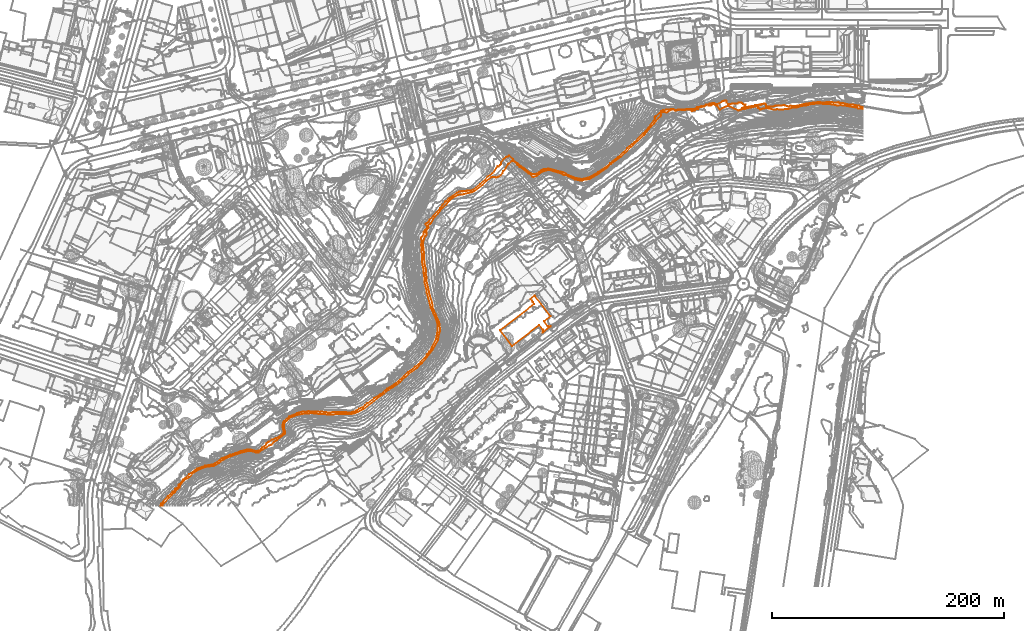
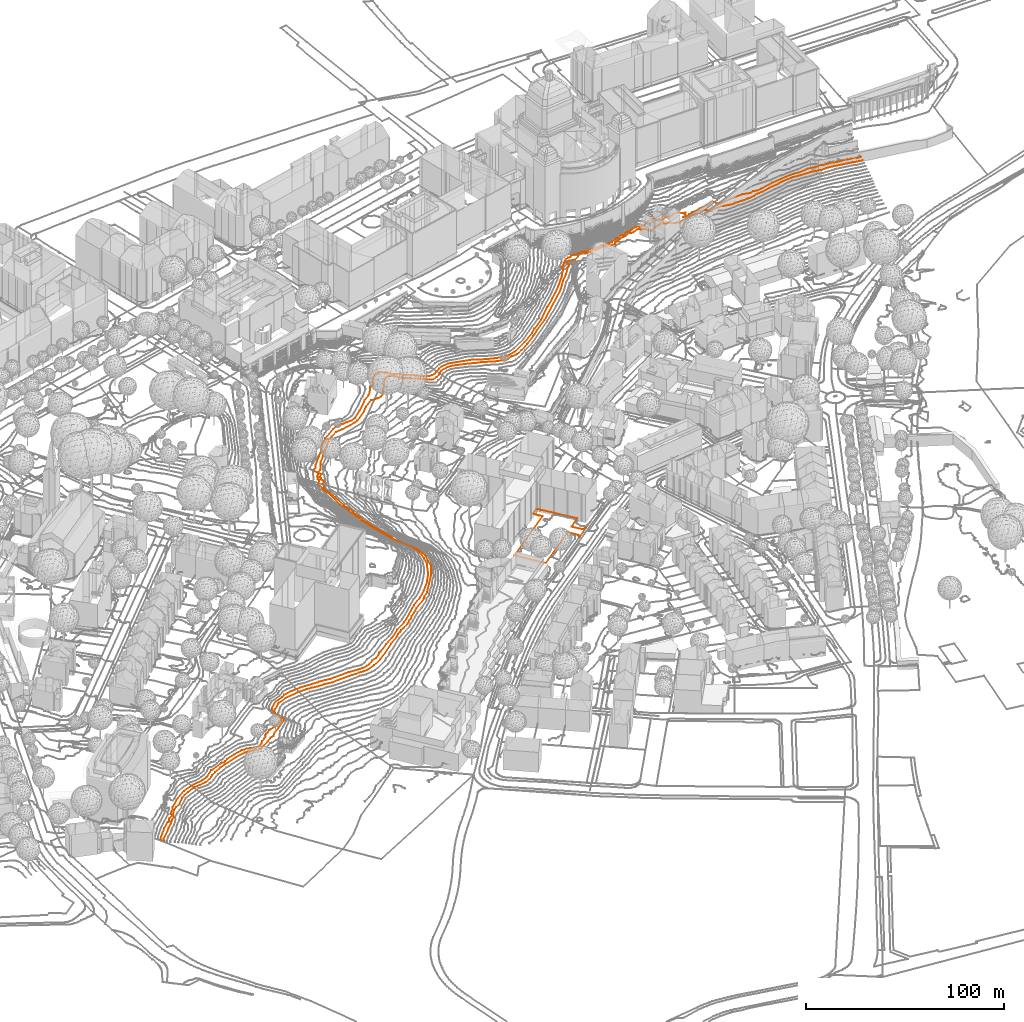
# Not in any storey, part 141 of 494: 3 proxies.
"""IFC2X3 model written with IfcOpenShell, lengths in metres."""

from ifc_helpers import new_model, entity, si_unit, frame, origin_with_axes, place, context, subcontext, project, element, save


model = new_model("IFC2X3")

# Units and contexts
model_context = context("Model", 3, precision=1e-05, world=origin_with_axes())
body_context = subcontext(model_context, "Body", "Model", "MODEL_VIEW")
ifc_project = project(units=[si_unit("AREAUNIT", "SQUARE_METRE"), si_unit("LENGTHUNIT", "METRE")], contexts=[model_context])

# Proxies
proxy_1_placement = place(None, frame((374.9277320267, 149.7877160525, 503.0065275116), z_axis=(0.0, 0.0, 1.0), x_axis=(1.0, 0.0, 0.0)))
element("IfcBuildingElementProxy", 1, at=proxy_1_placement, Name="Roads Outline 108", ObjectType="NOTDEFINED", context=body_context, shape_type="GeometricCurveSet", body=[
    entity("IfcGeometricCurveSet", [entity("IfcPolyline", [entity("IfcCartesianPoint", [0.0, 0.0, 0.0]), entity("IfcCartesianPoint", [29.5109999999, 22.6310000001, 0.0613416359]), entity("IfcCartesianPoint", [28.324, 24.1709999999, 0.0937933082]), entity("IfcCartesianPoint", [28.202, 24.3289999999, 0.0957038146]), entity("IfcCartesianPoint", [27.4109999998, 25.355, 0.0761084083]), entity("IfcCartesianPoint", [26.1499999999, 26.9909999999, 0.2251222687]), entity("IfcCartesianPoint", [29.8119999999, 29.801, 0.3091823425]), entity("IfcCartesianPoint", [30.0010000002, 29.5549999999, 0.2642736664]), entity("IfcCartesianPoint", [43.4640000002, 12.051, 0.3206114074]), entity("IfcCartesianPoint", [37.8650000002, 7.6809999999, -0.2680032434]), entity("IfcCartesianPoint", [41.0690000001, 3.537, -0.2568301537]), entity("IfcCartesianPoint", [41.3259999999, 3.317, -0.2567249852]), entity("IfcCartesianPoint", [41.6170000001, 3.1439999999, -0.2509099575]), entity("IfcCartesianPoint", [41.932, 3.0219999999, -0.2462269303]), entity("IfcCartesianPoint", [42.264, 2.9549999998, -0.2411063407]), entity("IfcCartesianPoint", [42.6510000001, 2.9469999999, -0.2454224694]), entity("IfcCartesianPoint", [43.0320000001, 3.014, -0.247263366]), entity("IfcCartesianPoint", [43.3930000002, 3.152, -0.2509293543]), entity("IfcCartesianPoint", [43.7209999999, 3.3569999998, -0.2545834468]), entity("IfcCartesianPoint", [36.4840000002, -2.2280000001, -0.4371853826]), entity("IfcCartesianPoint", [36.7110000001, -1.986, -0.43935893]), entity("IfcCartesianPoint", [36.8960000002, -1.7110000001, -0.439344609]), entity("IfcCartesianPoint", [37.034, -1.409, -0.4402286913]), entity("IfcCartesianPoint", [37.122, -1.0900000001, -0.4403077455]), entity("IfcCartesianPoint", [37.1580000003, -0.76, -0.4287603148]), entity("IfcCartesianPoint", [37.1370000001, -0.399, -0.4137720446]), entity("IfcCartesianPoint", [37.0520000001, -0.048, -0.3924721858]), entity("IfcCartesianPoint", [36.9070000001, 0.2830000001, -0.3611308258]), entity("IfcCartesianPoint", [36.7060000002, 0.5829999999, -0.3323738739]), entity("IfcCartesianPoint", [33.716, 4.463, -0.2780276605]), entity("IfcCartesianPoint", [10.4369999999, -13.5870000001, -0.1724256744]), entity("IfcCartesianPoint", [0.0, 0.0, 0.0])])]),
])
proxy_2_placement = place(None, frame((83.791356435, -1.3292839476, 521.0), z_axis=(0.0, 0.0, 1.0), x_axis=(1.0, 0.0, 0.0)))
element("IfcBuildingElementProxy", 2, at=proxy_2_placement, Name="Contour Line 521.0 m", ObjectType="NOTDEFINED", context=body_context, shape_type="GeometricCurveSet", body=[
    entity("IfcGeometricCurveSet", [entity("IfcPolyline", [entity("IfcCartesianPoint", [604.3863755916, 341.8987044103, 0.0]), entity("IfcCartesianPoint", [599.8863755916, 342.4084302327, 0.0]), entity("IfcCartesianPoint", [598.8863755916, 342.87574834, 0.0]), entity("IfcCartesianPoint", [587.8863755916, 344.799931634, 0.0]), entity("IfcCartesianPoint", [584.8863755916, 345.0718676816, 0.0]), entity("IfcCartesianPoint", [581.8863755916, 344.8837182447, 0.0]), entity("IfcCartesianPoint", [576.8863755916, 345.8593252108, 0.0]), entity("IfcCartesianPoint", [569.8863755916, 346.1228003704, 0.0]), entity("IfcCartesianPoint", [565.8863755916, 346.6195481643, 0.0]), entity("IfcCartesianPoint", [558.8863755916, 345.8922492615, 0.0]), entity("IfcCartesianPoint", [556.8863755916, 345.1698301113, 0.0]), entity("IfcCartesianPoint", [550.8863755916, 344.3693912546, 0.0]), entity("IfcCartesianPoint", [546.8863755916, 343.2551875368, 0.0]), entity("IfcCartesianPoint", [542.8863755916, 342.9363314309, 0.0]), entity("IfcCartesianPoint", [540.8863755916, 342.1447331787, 0.0]), entity("IfcCartesianPoint", [537.8863755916, 341.5804899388, 0.0]), entity("IfcCartesianPoint", [536.8863755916, 341.7028112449, 0.0]), entity("IfcCartesianPoint", [533.8863755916, 341.3257257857, 0.0]), entity("IfcCartesianPoint", [529.8863755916, 341.6553902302, 0.0]), entity("IfcCartesianPoint", [528.8863755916, 341.2635991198, 0.0]), entity("IfcCartesianPoint", [526.8863755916, 341.2891517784, 0.0]), entity("IfcCartesianPoint", [521.8863755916, 342.5064244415, 0.0]), entity("IfcCartesianPoint", [517.8863755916, 342.3385979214, 0.0]), entity("IfcCartesianPoint", [515.8863755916, 341.3889416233, 0.0]), entity("IfcCartesianPoint", [515.2852624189, 341.5, 0.0]), entity("IfcCartesianPoint", [514.8863755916, 341.9908675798, 0.0]), entity("IfcCartesianPoint", [513.7953899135, 342.5, 0.0]), entity("IfcCartesianPoint", [513.9711950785, 343.5, 0.0]), entity("IfcCartesianPoint", [512.8863755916, 344.0858758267, 0.0]), entity("IfcCartesianPoint", [510.8863755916, 343.9649802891, 0.0]), entity("IfcCartesianPoint", [508.8863755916, 343.3372289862, 0.0]), entity("IfcCartesianPoint", [505.8863755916, 342.9930379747, 0.0]), entity("IfcCartesianPoint", [502.8863755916, 341.9925241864, 0.0]), entity("IfcCartesianPoint", [500.8863755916, 341.8326068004, 0.0]), entity("IfcCartesianPoint", [497.8863755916, 341.0344222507, 0.0]), entity("IfcCartesianPoint", [496.8863755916, 340.3891862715, 0.0]), entity("IfcCartesianPoint", [487.8863755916, 344.5327061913, 0.0]), entity("IfcCartesianPoint", [482.8863755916, 342.7626782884, 0.0]), entity("IfcCartesianPoint", [480.8863755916, 341.2422150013, 0.0]), entity("IfcCartesianPoint", [479.8863755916, 342.3879524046, 0.0]), entity("IfcCartesianPoint", [478.7408025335, 344.5, 0.0]), entity("IfcCartesianPoint", [477.8863755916, 344.9392627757, 0.0]), entity("IfcCartesianPoint", [476.8863755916, 345.0330556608, 0.0]), entity("IfcCartesianPoint", [475.8863755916, 346.0452551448, 0.0]), entity("IfcCartesianPoint", [474.8863755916, 345.9737963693, 0.0]), entity("IfcCartesianPoint", [472.8863755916, 344.9998677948, 0.0]), entity("IfcCartesianPoint", [470.8863755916, 344.7797058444, 0.0]), entity("IfcCartesianPoint", [469.7864639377, 345.5, 0.0]), entity("IfcCartesianPoint", [466.8863755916, 343.8303726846, 0.0]), entity("IfcCartesianPoint", [462.5660133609, 343.5, 0.0]), entity("IfcCartesianPoint", [461.8863755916, 341.9782920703, 0.0]), entity("IfcCartesianPoint", [459.8863755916, 341.6795268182, 0.0]), entity("IfcCartesianPoint", [458.8863755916, 340.2770314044, 0.0]), entity("IfcCartesianPoint", [457.8863755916, 340.6517214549, 0.0]), entity("IfcCartesianPoint", [456.8863755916, 340.2544540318, 0.0]), entity("IfcCartesianPoint", [456.5286060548, 340.5, 0.0]), entity("IfcCartesianPoint", [456.3406690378, 341.5, 0.0]), entity("IfcCartesianPoint", [455.8863755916, 341.5685196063, 0.0]), entity("IfcCartesianPoint", [451.8863755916, 341.3246370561, 0.0]), entity("IfcCartesianPoint", [450.8863755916, 340.947225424, 0.0]), entity("IfcCartesianPoint", [448.8863755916, 341.1097930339, 0.0]), entity("IfcCartesianPoint", [447.8863755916, 340.8168091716, 0.0]), entity("IfcCartesianPoint", [446.8863755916, 341.2675598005, 0.0]), entity("IfcCartesianPoint", [442.8863755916, 340.5925324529, 0.0]), entity("IfcCartesianPoint", [441.8863755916, 340.6221711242, 0.0]), entity("IfcCartesianPoint", [440.8863755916, 341.5208488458, 0.0]), entity("IfcCartesianPoint", [439.3792548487, 341.5, 0.0]), entity("IfcCartesianPoint", [434.8863755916, 338.8202105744, 0.0]), entity("IfcCartesianPoint", [431.8863755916, 339.2382520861, 0.0]), entity("IfcCartesianPoint", [429.6788317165, 338.5, 0.0]), entity("IfcCartesianPoint", [429.8595155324, 336.5, 0.0]), entity("IfcCartesianPoint", [429.4439994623, 335.5, 0.0]), entity("IfcCartesianPoint", [427.8863755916, 334.1942290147, 0.0]), entity("IfcCartesianPoint", [423.8863755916, 329.1825994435, 0.0]), entity("IfcCartesianPoint", [420.8863755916, 326.3751370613, 0.0]), entity("IfcCartesianPoint", [415.3415556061, 319.5, 0.0]), entity("IfcCartesianPoint", [394.9737800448, 300.5, 0.0]), entity("IfcCartesianPoint", [386.9280117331, 294.5, 0.0]), entity("IfcCartesianPoint", [382.8863755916, 290.8732756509, 0.0]), entity("IfcCartesianPoint", [376.7291147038, 286.5, 0.0]), entity("IfcCartesianPoint", [371.8863755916, 283.4854147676, 0.0]), entity("IfcCartesianPoint", [367.8863755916, 281.3798472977, 0.0]), entity("IfcCartesianPoint", [364.8863755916, 280.9458428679, 0.0]), entity("IfcCartesianPoint", [363.8863755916, 281.089720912, 0.0]), entity("IfcCartesianPoint", [361.8863755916, 280.0909668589, 0.0]), entity("IfcCartesianPoint", [358.8863755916, 280.3238388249, 0.0]), entity("IfcCartesianPoint", [355.8863755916, 281.0995667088, 0.0]), entity("IfcCartesianPoint", [347.8863755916, 284.6564074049, 0.0]), entity("IfcCartesianPoint", [345.8863755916, 285.0040423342, 0.0]), entity("IfcCartesianPoint", [342.8863755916, 286.4240379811, 0.0]), entity("IfcCartesianPoint", [333.8863755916, 289.101015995, 0.0]), entity("IfcCartesianPoint", [331.8863755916, 289.1582836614, 0.0]), entity("IfcCartesianPoint", [327.8863755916, 288.0219921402, 0.0]), entity("IfcCartesianPoint", [326.8319679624, 287.5, 0.0]), entity("IfcCartesianPoint", [324.8863755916, 285.6300912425, 0.0]), entity("IfcCartesianPoint", [322.8863755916, 284.3430609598, 0.0]), entity("IfcCartesianPoint", [319.8863755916, 283.2183973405, 0.0]), entity("IfcCartesianPoint", [318.8863755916, 283.6954887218, 0.0]), entity("IfcCartesianPoint", [315.8863755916, 286.3299076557, 0.0]), entity("IfcCartesianPoint", [307.8863755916, 291.8349466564, 0.0]), entity("IfcCartesianPoint", [306.1546144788, 293.5, 0.0]), entity("IfcCartesianPoint", [305.7045290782, 294.5, 0.0]), entity("IfcCartesianPoint", [302.8863755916, 296.7450235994, 0.0]), entity("IfcCartesianPoint", [301.8863755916, 297.1964152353, 0.0]), entity("IfcCartesianPoint", [300.8863755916, 296.9886922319, 0.0]), entity("IfcCartesianPoint", [298.8863755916, 294.9352766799, 0.0]), entity("IfcCartesianPoint", [297.8863755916, 294.2972579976, 0.0]), entity("IfcCartesianPoint", [295.7970850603, 290.5, 0.0]), entity("IfcCartesianPoint", [293.8863755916, 288.0982478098, 0.0]), entity("IfcCartesianPoint", [293.1220708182, 286.5, 0.0]), entity("IfcCartesianPoint", [291.3957332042, 284.5, 0.0]), entity("IfcCartesianPoint", [290.0524679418, 283.5, 0.0]), entity("IfcCartesianPoint", [287.8863755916, 282.8791958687, 0.0]), entity("IfcCartesianPoint", [283.8863755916, 283.0540983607, 0.0]), entity("IfcCartesianPoint", [278.8863755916, 279.532561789, 0.0]), entity("IfcCartesianPoint", [275.8863755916, 276.3722633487, 0.0]), entity("IfcCartesianPoint", [268.8863755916, 270.9127260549, 0.0]), entity("IfcCartesianPoint", [266.8863755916, 270.1161239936, 0.0]), entity("IfcCartesianPoint", [258.8863755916, 268.2223692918, 0.0]), entity("IfcCartesianPoint", [254.8863755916, 267.7989292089, 0.0]), entity("IfcCartesianPoint", [250.695432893, 265.5, 0.0]), entity("IfcCartesianPoint", [247.8863755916, 263.5297297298, 0.0]), entity("IfcCartesianPoint", [247.2285846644, 262.5, 0.0]), entity("IfcCartesianPoint", [246.1083222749, 261.5, 0.0]), entity("IfcCartesianPoint", [244.8193839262, 259.5, 0.0]), entity("IfcCartesianPoint", [240.4705236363, 255.5, 0.0]), entity("IfcCartesianPoint", [237.4982193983, 251.5, 0.0]), entity("IfcCartesianPoint", [234.4798427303, 248.5, 0.0]), entity("IfcCartesianPoint", [231.610096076, 243.5, 0.0]), entity("IfcCartesianPoint", [230.8863755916, 242.7098926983, 0.0]), entity("IfcCartesianPoint", [228.8303915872, 241.5, 0.0]), entity("IfcCartesianPoint", [229.5957967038, 239.5, 0.0]), entity("IfcCartesianPoint", [227.8420036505, 237.5, 0.0]), entity("IfcCartesianPoint", [227.8863755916, 236.2383647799, 0.0]), entity("IfcCartesianPoint", [226.8863755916, 235.7663043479, 0.0]), entity("IfcCartesianPoint", [227.6013899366, 234.5, 0.0]), entity("IfcCartesianPoint", [227.5567533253, 233.5, 0.0]), entity("IfcCartesianPoint", [226.8863755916, 232.0772357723, 0.0]), entity("IfcCartesianPoint", [225.8863755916, 231.4722921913, 0.0]), entity("IfcCartesianPoint", [225.6793390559, 229.5, 0.0]), entity("IfcCartesianPoint", [224.9956873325, 228.5, 0.0]), entity("IfcCartesianPoint", [224.7261205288, 227.5, 0.0]), entity("IfcCartesianPoint", [224.5506880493, 225.5, 0.0]), entity("IfcCartesianPoint", [225.1147865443, 222.5, 0.0]), entity("IfcCartesianPoint", [225.5708747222, 217.5, 0.0]), entity("IfcCartesianPoint", [225.8988629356, 209.5, 0.0]), entity("IfcCartesianPoint", [227.2228811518, 203.5, 0.0]), entity("IfcCartesianPoint", [227.1083720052, 200.5, 0.0]), entity("IfcCartesianPoint", [227.7493877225, 196.5, 0.0]), entity("IfcCartesianPoint", [227.8487824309, 193.5, 0.0]), entity("IfcCartesianPoint", [229.9312222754, 184.5, 0.0]), entity("IfcCartesianPoint", [229.9138551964, 183.5, 0.0]), entity("IfcCartesianPoint", [232.7066443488, 174.5, 0.0]), entity("IfcCartesianPoint", [232.7599097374, 171.5, 0.0]), entity("IfcCartesianPoint", [238.4113636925, 158.5, 0.0]), entity("IfcCartesianPoint", [238.9011349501, 156.5, 0.0]), entity("IfcCartesianPoint", [239.4631737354, 151.5, 0.0]), entity("IfcCartesianPoint", [239.4066303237, 150.5, 0.0]), entity("IfcCartesianPoint", [238.1785400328, 146.5, 0.0]), entity("IfcCartesianPoint", [237.6311051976, 142.5, 0.0]), entity("IfcCartesianPoint", [232.9923784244, 134.5, 0.0]), entity("IfcCartesianPoint", [223.7236762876, 122.5, 0.0]), entity("IfcCartesianPoint", [221.1379507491, 120.5, 0.0]), entity("IfcCartesianPoint", [219.5999798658, 118.5, 0.0]), entity("IfcCartesianPoint", [212.4273943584, 113.5, 0.0]), entity("IfcCartesianPoint", [209.3122473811, 110.5, 0.0]), entity("IfcCartesianPoint", [206.7777386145, 108.5, 0.0]), entity("IfcCartesianPoint", [205.067651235, 106.5, 0.0]), entity("IfcCartesianPoint", [203.8863755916, 105.8727701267, 0.0]), entity("IfcCartesianPoint", [201.8863755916, 103.9784876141, 0.0]), entity("IfcCartesianPoint", [197.8863755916, 101.4125049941, 0.0]), entity("IfcCartesianPoint", [195.8863755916, 100.4982316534, 0.0]), entity("IfcCartesianPoint", [194.8863755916, 99.5092929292, 0.0]), entity("IfcCartesianPoint", [192.8863755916, 98.3355545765, 0.0]), entity("IfcCartesianPoint", [191.0063052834, 96.5, 0.0]), entity("IfcCartesianPoint", [185.8863755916, 92.8303038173, 0.0]), entity("IfcCartesianPoint", [173.8863755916, 83.3126562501, 0.0]), entity("IfcCartesianPoint", [168.8863755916, 80.687684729, 0.0]), entity("IfcCartesianPoint", [164.8863755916, 79.1813009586, 0.0]), entity("IfcCartesianPoint", [161.8863755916, 78.5833579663, 0.0]), entity("IfcCartesianPoint", [158.8863755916, 78.9213296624, 0.0]), entity("IfcCartesianPoint", [156.8863755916, 78.602060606, 0.0]), entity("IfcCartesianPoint", [154.8863755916, 78.8458904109, 0.0]), entity("IfcCartesianPoint", [142.8863755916, 78.2366922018, 0.0]), entity("IfcCartesianPoint", [138.8863755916, 78.7122124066, 0.0]), entity("IfcCartesianPoint", [134.8863755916, 78.6884531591, 0.0]), entity("IfcCartesianPoint", [131.8863755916, 79.2414070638, 0.0]), entity("IfcCartesianPoint", [128.8863755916, 79.4088554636, 0.0]), entity("IfcCartesianPoint", [123.8863755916, 79.2872216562, 0.0]), entity("IfcCartesianPoint", [115.8863755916, 78.0295998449, 0.0]), entity("IfcCartesianPoint", [110.8863755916, 75.9730396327, 0.0]), entity("IfcCartesianPoint", [110.0408298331, 75.5, 0.0]), entity("IfcCartesianPoint", [105.8863755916, 71.7706288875, 0.0]), entity("IfcCartesianPoint", [105.0247756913, 70.5, 0.0]), entity("IfcCartesianPoint", [104.7229251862, 67.5, 0.0]), entity("IfcCartesianPoint", [105.7636862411, 63.5, 0.0]), entity("IfcCartesianPoint", [105.6760198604, 62.5, 0.0]), entity("IfcCartesianPoint", [105.1440402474, 61.5, 0.0]), entity("IfcCartesianPoint", [99.0315857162, 56.5, 0.0]), entity("IfcCartesianPoint", [95.8863755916, 54.6133212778, 0.0]), entity("IfcCartesianPoint", [93.8863755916, 52.2652329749, 0.0]), entity("IfcCartesianPoint", [91.8863755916, 51.7428511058, 0.0]), entity("IfcCartesianPoint", [88.9253225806, 49.5, 0.0]), entity("IfcCartesianPoint", [85.4118705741, 47.5, 0.0]), entity("IfcCartesianPoint", [82.8863755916, 45.5958343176, 0.0]), entity("IfcCartesianPoint", [80.8863755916, 45.4526112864, 0.0]), entity("IfcCartesianPoint", [75.8863755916, 46.8805472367, 0.0]), entity("IfcCartesianPoint", [73.8863755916, 46.8262884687, 0.0]), entity("IfcCartesianPoint", [67.8863755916, 45.4140938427, 0.0]), entity("IfcCartesianPoint", [56.7106525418, 41.5, 0.0]), entity("IfcCartesianPoint", [52.4794921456, 39.5, 0.0]), entity("IfcCartesianPoint", [49.8863755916, 37.755170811, 0.0]), entity("IfcCartesianPoint", [48.5856585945, 36.5, 0.0]), entity("IfcCartesianPoint", [43.8863755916, 34.0239391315, 0.0]), entity("IfcCartesianPoint", [36.8863755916, 33.0761060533, 0.0]), entity("IfcCartesianPoint", [31.8863755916, 31.1196475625, 0.0]), entity("IfcCartesianPoint", [28.8863755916, 29.5551261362, 0.0]), entity("IfcCartesianPoint", [26.8863755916, 28.1370601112, 0.0]), entity("IfcCartesianPoint", [22.8863755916, 24.2091403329, 0.0]), entity("IfcCartesianPoint", [19.8863755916, 22.5053724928, 0.0]), entity("IfcCartesianPoint", [17.8863755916, 20.9011958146, 0.0]), entity("IfcCartesianPoint", [15.3224500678, 17.5, 0.0]), entity("IfcCartesianPoint", [14.617059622, 15.5, 0.0]), entity("IfcCartesianPoint", [12.8863755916, 14.1623841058, 0.0]), entity("IfcCartesianPoint", [10.677470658, 11.5, 0.0]), entity("IfcCartesianPoint", [7.8863755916, 9.007092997, 0.0]), entity("IfcCartesianPoint", [5.725555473, 6.5, 0.0]), entity("IfcCartesianPoint", [0.8863755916, 1.7936953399, 0.0]), entity("IfcCartesianPoint", [0.0, 0.5, 0.0]), entity("IfcCartesianPoint", [0.0, 0.0, 0.0])])]),
])
proxy_3_placement = place(None, frame((81.9797185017, -1.3292839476, 522.0), z_axis=(0.0, 0.0, 1.0), x_axis=(1.0, 0.0, 0.0)))
element("IfcBuildingElementProxy", 3, at=proxy_3_placement, Name="Contour Line 522.0 m", ObjectType="NOTDEFINED", context=body_context, shape_type="GeometricCurveSet", body=[
    entity("IfcGeometricCurveSet", [entity("IfcPolyline", [entity("IfcCartesianPoint", [606.198013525, 343.637235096, 0.0]), entity("IfcCartesianPoint", [603.698013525, 343.7864330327, 0.0]), entity("IfcCartesianPoint", [602.698013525, 344.6129616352, 0.0]), entity("IfcCartesianPoint", [600.698013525, 344.6392572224, 0.0]), entity("IfcCartesianPoint", [599.698013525, 345.0120298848, 0.0]), entity("IfcCartesianPoint", [598.698013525, 344.8008034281, 0.0]), entity("IfcCartesianPoint", [597.6226225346, 345.5, 0.0]), entity("IfcCartesianPoint", [593.698013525, 345.6589945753, 0.0]), entity("IfcCartesianPoint", [591.698013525, 346.0818581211, 0.0]), entity("IfcCartesianPoint", [590.698013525, 346.6211133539, 0.0]), entity("IfcCartesianPoint", [585.698013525, 347.007639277, 0.0]), entity("IfcCartesianPoint", [584.698013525, 347.5986667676, 0.0]), entity("IfcCartesianPoint", [581.698013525, 347.3086317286, 0.0]), entity("IfcCartesianPoint", [577.698013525, 348.0105438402, 0.0]), entity("IfcCartesianPoint", [571.698013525, 347.398686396, 0.0]), entity("IfcCartesianPoint", [568.698013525, 347.7309078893, 0.0]), entity("IfcCartesianPoint", [564.698013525, 347.5518119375, 0.0]), entity("IfcCartesianPoint", [555.698013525, 346.2610782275, 0.0]), entity("IfcCartesianPoint", [548.3698783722, 344.5, 0.0]), entity("IfcCartesianPoint", [545.698013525, 344.1939337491, 0.0]), entity("IfcCartesianPoint", [543.698013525, 344.6515345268, 0.0]), entity("IfcCartesianPoint", [541.698013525, 344.0219584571, 0.0]), entity("IfcCartesianPoint", [537.698013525, 345.0840807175, 0.0]), entity("IfcCartesianPoint", [530.698013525, 344.6569793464, 0.0]), entity("IfcCartesianPoint", [526.698013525, 343.7771395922, 0.0]), entity("IfcCartesianPoint", [522.698013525, 343.7687285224, 0.0]), entity("IfcCartesianPoint", [522.3005536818, 344.5, 0.0]), entity("IfcCartesianPoint", [522.2770525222, 345.5, 0.0]), entity("IfcCartesianPoint", [521.698013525, 346.4596076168, 0.0]), entity("IfcCartesianPoint", [520.698013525, 346.6939958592, 0.0]), entity("IfcCartesianPoint", [519.698013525, 346.0109590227, 0.0]), entity("IfcCartesianPoint", [518.698013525, 346.0076816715, 0.0]), entity("IfcCartesianPoint", [517.698013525, 345.2650848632, 0.0]), entity("IfcCartesianPoint", [516.698013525, 345.5421743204, 0.0]), entity("IfcCartesianPoint", [512.698013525, 345.1022361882, 0.0]), entity("IfcCartesianPoint", [511.698013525, 344.4403077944, 0.0]), entity("IfcCartesianPoint", [507.698013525, 344.0227333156, 0.0]), entity("IfcCartesianPoint", [507.3323821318, 343.5, 0.0]), entity("IfcCartesianPoint", [505.698013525, 343.3049045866, 0.0]), entity("IfcCartesianPoint", [504.698013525, 342.4042342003, 0.0]), entity("IfcCartesianPoint", [501.698013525, 342.4753396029, 0.0]), entity("IfcCartesianPoint", [501.698013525, 342.7032146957, 0.0]), entity("IfcCartesianPoint", [503.8168659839, 343.5, 0.0]), entity("IfcCartesianPoint", [503.7548997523, 344.5, 0.0]), entity("IfcCartesianPoint", [504.7404163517, 345.5, 0.0]), entity("IfcCartesianPoint", [502.698013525, 346.0073746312, 0.0]), entity("IfcCartesianPoint", [501.698013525, 347.1635160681, 0.0]), entity("IfcCartesianPoint", [500.6260783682, 347.5, 0.0]), entity("IfcCartesianPoint", [498.698013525, 347.5236572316, 0.0]), entity("IfcCartesianPoint", [497.698013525, 346.6240109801, 0.0]), entity("IfcCartesianPoint", [493.698013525, 346.6427139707, 0.0]), entity("IfcCartesianPoint", [490.698013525, 345.9413986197, 0.0]), entity("IfcCartesianPoint", [489.698013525, 346.0256883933, 0.0]), entity("IfcCartesianPoint", [488.5070910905, 347.5, 0.0]), entity("IfcCartesianPoint", [488.2100489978, 348.5, 0.0]), entity("IfcCartesianPoint", [487.698013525, 348.9297867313, 0.0]), entity("IfcCartesianPoint", [486.698013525, 348.9575870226, 0.0]), entity("IfcCartesianPoint", [484.7770508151, 348.5, 0.0]), entity("IfcCartesianPoint", [481.698013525, 346.4669657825, 0.0]), entity("IfcCartesianPoint", [478.698013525, 346.0124630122, 0.0]), entity("IfcCartesianPoint", [477.698013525, 346.8881819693, 0.0]), entity("IfcCartesianPoint", [476.698013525, 346.9557478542, 0.0]), entity("IfcCartesianPoint", [473.8383135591, 346.5, 0.0]), entity("IfcCartesianPoint", [472.698013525, 345.8622551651, 0.0]), entity("IfcCartesianPoint", [470.511347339, 345.5, 0.0]), entity("IfcCartesianPoint", [467.698013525, 344.0270382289, 0.0]), entity("IfcCartesianPoint", [466.698013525, 344.3786721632, 0.0]), entity("IfcCartesianPoint", [463.698013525, 343.3314338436, 0.0]), entity("IfcCartesianPoint", [462.698013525, 343.4157155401, 0.0]), entity("IfcCartesianPoint", [459.698013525, 341.6271342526, 0.0]), entity("IfcCartesianPoint", [453.698013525, 341.5638527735, 0.0]), entity("IfcCartesianPoint", [451.698013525, 341.1794283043, 0.0]), entity("IfcCartesianPoint", [450.698013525, 341.5208096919, 0.0]), entity("IfcCartesianPoint", [449.698013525, 341.0791462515, 0.0]), entity("IfcCartesianPoint", [448.698013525, 341.5531863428, 0.0]), entity("IfcCartesianPoint", [446.698013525, 341.4882209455, 0.0]), entity("IfcCartesianPoint", [444.698013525, 340.7391100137, 0.0]), entity("IfcCartesianPoint", [443.698013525, 340.870022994, 0.0]), entity("IfcCartesianPoint", [442.698013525, 341.6032782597, 0.0]), entity("IfcCartesianPoint", [436.0058431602, 341.5, 0.0]), entity("IfcCartesianPoint", [434.9003831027, 340.5, 0.0]), entity("IfcCartesianPoint", [433.698013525, 340.719621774, 0.0]), entity("IfcCartesianPoint", [431.698013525, 339.9703262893, 0.0]), entity("IfcCartesianPoint", [427.698013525, 335.7902147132, 0.0]), entity("IfcCartesianPoint", [426.6029583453, 335.5, 0.0]), entity("IfcCartesianPoint", [426.266314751, 334.5, 0.0]), entity("IfcCartesianPoint", [426.6147885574, 333.5, 0.0]), entity("IfcCartesianPoint", [426.1695957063, 332.5, 0.0]), entity("IfcCartesianPoint", [425.1633427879, 331.5, 0.0]), entity("IfcCartesianPoint", [422.698013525, 328.0214191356, 0.0]), entity("IfcCartesianPoint", [416.698013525, 321.2668423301, 0.0]), entity("IfcCartesianPoint", [408.8192450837, 313.5, 0.0]), entity("IfcCartesianPoint", [402.698013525, 308.2600979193, 0.0]), entity("IfcCartesianPoint", [394.698013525, 300.2717541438, 0.0]), entity("IfcCartesianPoint", [387.698013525, 295.0854133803, 0.0]), entity("IfcCartesianPoint", [384.698013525, 292.289659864, 0.0]), entity("IfcCartesianPoint", [377.698013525, 287.406673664, 0.0]), entity("IfcCartesianPoint", [369.0616907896, 282.5, 0.0]), entity("IfcCartesianPoint", [363.698013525, 281.5231730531, 0.0]), entity("IfcCartesianPoint", [362.698013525, 281.4595959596, 0.0]), entity("IfcCartesianPoint", [357.698013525, 282.4601414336, 0.0]), entity("IfcCartesianPoint", [351.698013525, 284.8294436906, 0.0]), entity("IfcCartesianPoint", [347.698013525, 287.1184689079, 0.0]), entity("IfcCartesianPoint", [334.698013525, 290.4321167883, 0.0]), entity("IfcCartesianPoint", [330.698013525, 289.8174995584, 0.0]), entity("IfcCartesianPoint", [328.698013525, 288.9623844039, 0.0]), entity("IfcCartesianPoint", [324.698013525, 286.2246471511, 0.0]), entity("IfcCartesianPoint", [322.698013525, 285.587884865, 0.0]), entity("IfcCartesianPoint", [320.698013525, 285.6777609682, 0.0]), entity("IfcCartesianPoint", [319.698013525, 286.0709351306, 0.0]), entity("IfcCartesianPoint", [316.698013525, 288.2350185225, 0.0]), entity("IfcCartesianPoint", [314.698013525, 290.070368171, 0.0]), entity("IfcCartesianPoint", [310.6148497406, 292.5, 0.0]), entity("IfcCartesianPoint", [307.698013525, 295.4066855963, 0.0]), entity("IfcCartesianPoint", [305.6551105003, 296.5, 0.0]), entity("IfcCartesianPoint", [304.122462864, 298.5, 0.0]), entity("IfcCartesianPoint", [300.698013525, 301.5506864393, 0.0]), entity("IfcCartesianPoint", [299.698013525, 300.8678783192, 0.0]), entity("IfcCartesianPoint", [297.9779048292, 300.5, 0.0]), entity("IfcCartesianPoint", [295.9158755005, 298.5, 0.0]), entity("IfcCartesianPoint", [293.7144463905, 295.5, 0.0]), entity("IfcCartesianPoint", [293.6728166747, 294.5, 0.0]), entity("IfcCartesianPoint", [292.9100645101, 293.5, 0.0]), entity("IfcCartesianPoint", [291.698013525, 292.3231009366, 0.0]), entity("IfcCartesianPoint", [290.698013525, 292.4304495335, 0.0]), entity("IfcCartesianPoint", [287.698013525, 287.972075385, 0.0]), entity("IfcCartesianPoint", [286.3161795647, 286.5, 0.0]), entity("IfcCartesianPoint", [282.3474336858, 283.5, 0.0]), entity("IfcCartesianPoint", [275.698013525, 277.0174917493, 0.0]), entity("IfcCartesianPoint", [270.2290850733, 272.5, 0.0]), entity("IfcCartesianPoint", [267.698013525, 271.4686950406, 0.0]), entity("IfcCartesianPoint", [264.698013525, 271.2940344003, 0.0]), entity("IfcCartesianPoint", [262.698013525, 270.8507621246, 0.0]), entity("IfcCartesianPoint", [261.698013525, 271.1296965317, 0.0]), entity("IfcCartesianPoint", [260.698013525, 270.6410788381, 0.0]), entity("IfcCartesianPoint", [259.698013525, 271.0029776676, 0.0]), entity("IfcCartesianPoint", [257.692729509, 270.5, 0.0]), entity("IfcCartesianPoint", [255.698013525, 269.5597563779, 0.0]), entity("IfcCartesianPoint", [248.3571724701, 264.5, 0.0]), entity("IfcCartesianPoint", [246.698013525, 262.3792604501, 0.0]), entity("IfcCartesianPoint", [245.698013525, 261.9029959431, 0.0]), entity("IfcCartesianPoint", [243.4391812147, 259.5, 0.0]), entity("IfcCartesianPoint", [241.4058713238, 256.5, 0.0]), entity("IfcCartesianPoint", [232.3590632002, 246.5, 0.0]), entity("IfcCartesianPoint", [231.2830146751, 244.5, 0.0]), entity("IfcCartesianPoint", [229.6651617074, 243.5, 0.0]), entity("IfcCartesianPoint", [228.7529239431, 242.5, 0.0]), entity("IfcCartesianPoint", [229.9216336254, 240.5, 0.0]), entity("IfcCartesianPoint", [229.8715357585, 239.5, 0.0]), entity("IfcCartesianPoint", [228.1465663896, 237.5, 0.0]), entity("IfcCartesianPoint", [227.8833158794, 236.5, 0.0]), entity("IfcCartesianPoint", [227.0958774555, 235.5, 0.0]), entity("IfcCartesianPoint", [226.9927794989, 233.5, 0.0]), entity("IfcCartesianPoint", [225.1464420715, 231.5, 0.0]), entity("IfcCartesianPoint", [224.9559082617, 230.5, 0.0]), entity("IfcCartesianPoint", [225.2548225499, 227.5, 0.0]), entity("IfcCartesianPoint", [224.7818051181, 224.5, 0.0]), entity("IfcCartesianPoint", [225.4212656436, 222.5, 0.0]), entity("IfcCartesianPoint", [225.569868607, 210.5, 0.0]), entity("IfcCartesianPoint", [226.9680770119, 203.5, 0.0]), entity("IfcCartesianPoint", [226.9398976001, 201.5, 0.0]), entity("IfcCartesianPoint", [227.7107410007, 196.5, 0.0]), entity("IfcCartesianPoint", [227.8542014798, 192.5, 0.0]), entity("IfcCartesianPoint", [229.5990505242, 185.5, 0.0]), entity("IfcCartesianPoint", [229.7366440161, 183.5, 0.0]), entity("IfcCartesianPoint", [232.2738138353, 174.5, 0.0]), entity("IfcCartesianPoint", [233.0969921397, 170.5, 0.0]), entity("IfcCartesianPoint", [237.4591561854, 161.5, 0.0]), entity("IfcCartesianPoint", [238.8425162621, 157.5, 0.0]), entity("IfcCartesianPoint", [239.1606524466, 151.5, 0.0]), entity("IfcCartesianPoint", [238.7951444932, 148.5, 0.0]), entity("IfcCartesianPoint", [237.629348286, 143.5, 0.0]), entity("IfcCartesianPoint", [234.2980135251, 136.5, 0.0]), entity("IfcCartesianPoint", [231.8230247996, 132.5, 0.0]), entity("IfcCartesianPoint", [230.1900135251, 130.5, 0.0]), entity("IfcCartesianPoint", [229.7665580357, 129.5, 0.0]), entity("IfcCartesianPoint", [224.216217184, 123.5, 0.0]), entity("IfcCartesianPoint", [219.775708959, 119.5, 0.0]), entity("IfcCartesianPoint", [213.698013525, 115.0758996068, 0.0]), entity("IfcCartesianPoint", [201.9807795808, 104.5, 0.0]), entity("IfcCartesianPoint", [195.698013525, 100.6438243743, 0.0]), entity("IfcCartesianPoint", [189.698013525, 95.806359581, 0.0]), entity("IfcCartesianPoint", [184.4592214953, 92.5, 0.0]), entity("IfcCartesianPoint", [178.698013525, 88.0729818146, 0.0]), entity("IfcCartesianPoint", [177.698013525, 87.6624656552, 0.0]), entity("IfcCartesianPoint", [176.635268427, 86.5, 0.0]), entity("IfcCartesianPoint", [174.0240639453, 84.5, 0.0]), entity("IfcCartesianPoint", [171.2580021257, 83.5, 0.0]), entity("IfcCartesianPoint", [168.698013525, 81.6449412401, 0.0]), entity("IfcCartesianPoint", [166.698013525, 80.7133404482, 0.0]), entity("IfcCartesianPoint", [163.698013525, 80.0336498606, 0.0]), entity("IfcCartesianPoint", [155.698013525, 80.5995100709, 0.0]), entity("IfcCartesianPoint", [144.698013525, 80.1099754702, 0.0]), entity("IfcCartesianPoint", [138.698013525, 80.8594159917, 0.0]), entity("IfcCartesianPoint", [137.698013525, 80.6373283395, 0.0]), entity("IfcCartesianPoint", [127.698013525, 81.1084610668, 0.0]), entity("IfcCartesianPoint", [124.698013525, 80.6531277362, 0.0]), entity("IfcCartesianPoint", [122.698013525, 80.6967255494, 0.0]), entity("IfcCartesianPoint", [117.698013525, 79.6552135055, 0.0]), entity("IfcCartesianPoint", [115.698013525, 78.2210708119, 0.0]), entity("IfcCartesianPoint", [110.7834196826, 76.5, 0.0]), entity("IfcCartesianPoint", [106.698013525, 72.8172256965, 0.0]), entity("IfcCartesianPoint", [105.8100705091, 71.5, 0.0]), entity("IfcCartesianPoint", [105.2777776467, 68.5, 0.0]), entity("IfcCartesianPoint", [106.2918397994, 63.5, 0.0]), entity("IfcCartesianPoint", [106.1582599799, 62.5, 0.0]), entity("IfcCartesianPoint", [105.4893904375, 61.5, 0.0]), entity("IfcCartesianPoint", [103.698013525, 60.0084347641, 0.0]), entity("IfcCartesianPoint", [99.698013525, 57.9110393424, 0.0]), entity("IfcCartesianPoint", [96.698013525, 56.764684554, 0.0]), entity("IfcCartesianPoint", [95.698013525, 56.6631693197, 0.0]), entity("IfcCartesianPoint", [93.698013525, 54.8455227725, 0.0]), entity("IfcCartesianPoint", [92.6587220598, 54.5, 0.0]), entity("IfcCartesianPoint", [91.5380664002, 53.5, 0.0]), entity("IfcCartesianPoint", [91.1807565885, 52.5, 0.0]), entity("IfcCartesianPoint", [89.698013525, 51.1276243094, 0.0]), entity("IfcCartesianPoint", [87.698013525, 49.9546744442, 0.0]), entity("IfcCartesianPoint", [86.6272846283, 48.5, 0.0]), entity("IfcCartesianPoint", [84.698013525, 47.0222115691, 0.0]), entity("IfcCartesianPoint", [83.698013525, 46.6396735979, 0.0]), entity("IfcCartesianPoint", [82.698013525, 46.6322201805, 0.0]), entity("IfcCartesianPoint", [77.698013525, 48.017405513, 0.0]), entity("IfcCartesianPoint", [74.698013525, 48.0699635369, 0.0]), entity("IfcCartesianPoint", [69.698013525, 46.8075674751, 0.0]), entity("IfcCartesianPoint", [64.698013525, 45.1403031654, 0.0]), entity("IfcCartesianPoint", [62.698013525, 44.0537533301, 0.0]), entity("IfcCartesianPoint", [61.698013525, 43.117908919, 0.0]), entity("IfcCartesianPoint", [60.698013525, 43.6516466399, 0.0]), entity("IfcCartesianPoint", [59.9901454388, 43.5, 0.0]), entity("IfcCartesianPoint", [53.698013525, 40.7399053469, 0.0]), entity("IfcCartesianPoint", [52.698013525, 40.5297596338, 0.0]), entity("IfcCartesianPoint", [47.698013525, 36.4558193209, 0.0]), entity("IfcCartesianPoint", [44.698013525, 35.1941813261, 0.0]), entity("IfcCartesianPoint", [38.698013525, 34.2241582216, 0.0]), entity("IfcCartesianPoint", [31.698013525, 31.7690229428, 0.0]), entity("IfcCartesianPoint", [24.698013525, 26.8978514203, 0.0]), entity("IfcCartesianPoint", [19.698013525, 22.1419776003, 0.0]), entity("IfcCartesianPoint", [18.6103171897, 20.5, 0.0]), entity("IfcCartesianPoint", [16.4534627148, 18.5, 0.0]), entity("IfcCartesianPoint", [15.8419728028, 17.5, 0.0]), entity("IfcCartesianPoint", [15.9249330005, 16.5, 0.0]), entity("IfcCartesianPoint", [15.698013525, 16.0315097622, 0.0]), entity("IfcCartesianPoint", [13.2942344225, 14.5, 0.0]), entity("IfcCartesianPoint", [12.698013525, 13.8233341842, 0.0]), entity("IfcCartesianPoint", [12.2879793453, 12.5, 0.0]), entity("IfcCartesianPoint", [11.698013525, 11.9035542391, 0.0]), entity("IfcCartesianPoint", [10.698013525, 11.9524571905, 0.0]), entity("IfcCartesianPoint", [6.698013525, 8.1942626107, 0.0]), entity("IfcCartesianPoint", [0.5666426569, 1.5, 0.0]), entity("IfcCartesianPoint", [0.0, 0.0, 0.0])])]),
])

save(model, "model.ifc")
